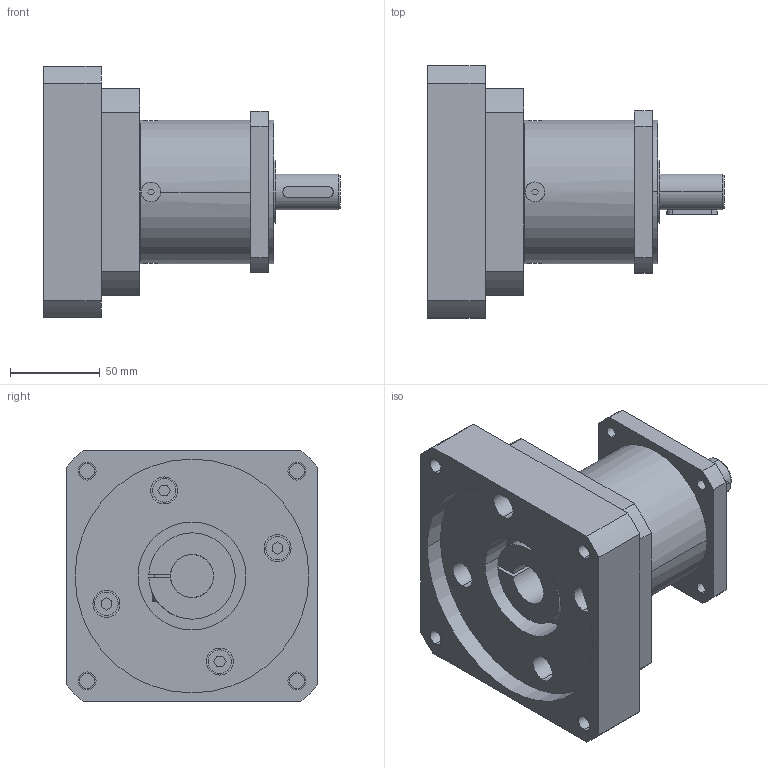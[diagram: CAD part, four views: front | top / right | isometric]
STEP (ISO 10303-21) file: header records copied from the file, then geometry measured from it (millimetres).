
FILE_DESCRIPTION((''),'2;1');
FILE_NAME('MB_PLE_MASTER','2019-12-04T',('agw'),(''),'CREO PARAMETRIC BY PTC INC, 2015290','CREO PARAMETRIC BY PTC INC, 2015290','');
FILE_SCHEMA(('AUTOMOTIVE_DESIGN { 1 0 10303 214 1 1 1 1 }'));
Length unit declared in the file: millimetre
Products named in the file (1): MB_PLE_MASTER
Bounding box: 165 x 140 x 140 mm (x, y, z)
Volume: 1098850.5 mm3; surface area: 128599.3 mm2
Topology: 1 solids, 6 shells, 248 faces, 588 edges, 387 vertices
Faces by surface type: plane 133, cylinder 103, cone 6, torus 6
Entity records: 8266 total; most frequent: CARTESIAN_POINT 1429, DIRECTION 1292, ORIENTED_EDGE 1152, EDGE_CURVE 586, AXIS2_PLACEMENT_3D 469, VERTEX_POINT 387, VECTOR 354, LINE 354
